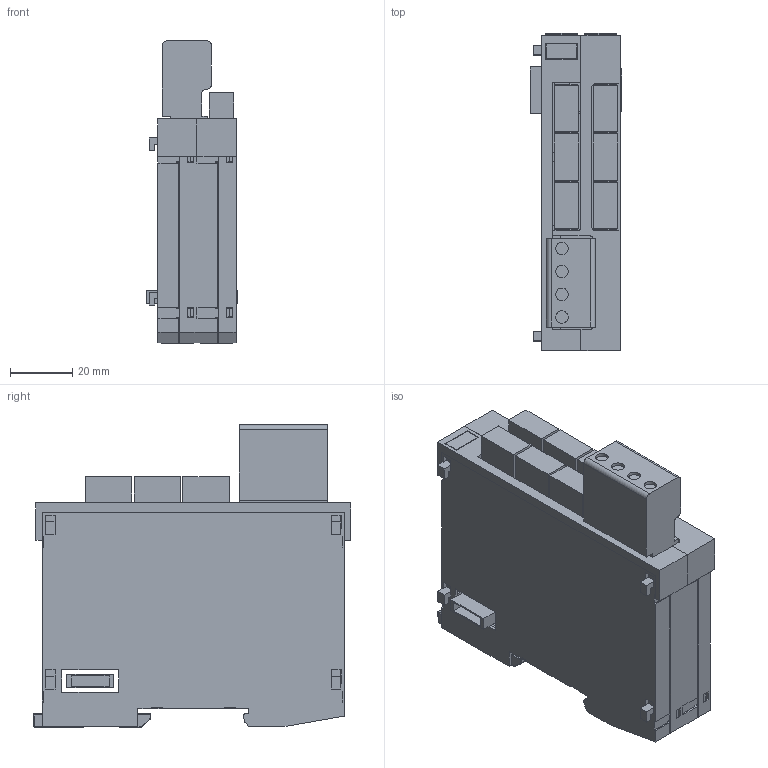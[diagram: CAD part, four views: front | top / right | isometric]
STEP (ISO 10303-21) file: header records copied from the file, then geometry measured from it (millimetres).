
FILE_DESCRIPTION (( 'STEP AP214' ), '1' );
FILE_NAME ('EE121-1 (20-068-121-1) Export20230629.STEP', '2023-06-29T06:56:34', ( 'Windows-Benutzer' ), ( '' ), 'SwSTEP 2.0', 'SolidWorks 2020', '' );
FILE_SCHEMA (( 'AUTOMOTIVE_DESIGN' ));
Length unit declared in the file: millimetre
Products named in the file (13): LP_EE121-1; Schieber_f Suport; EE121-1 (20-068-121-1) Export20230629; S-Dias Doppelmodul Abdeckung Relais Support_EE121-1; S-Dias Schale links_f Suport; S-Dias Zwischenstück Doppelmodul; Dummy_4110262104 4pol.Federkraftstecker f.2reih 1952283; Dummy_4080225345 Erni Buchse; S-Dias Schale rechts_f Suport; Dummy_4080225787 Weidmüller 8000078330; ZM1505-2730-10 Rasthaken S-Dias; Dummy_4110251205 4pol.Minicombicon-Grundgehäuse RM3,5 1937512; Dummy_4080225346 Erni Stift
Assembly tree (18 placements, depth 3):
  EE121-1 (20-068-121-1) Export20230629
    S-Dias Schale links_f Suport
    S-Dias Schale rechts_f Suport
    Schieber_f Suport
    S-Dias Doppelmodul Abdeckung Relais Support_EE121-1
    S-Dias Zwischenstück Doppelmodul
    ZM1505-2730-10 Rasthaken S-Dias  x2
    LP_EE121-1  x2
      Dummy_4080225345 Erni Buchse
      Dummy_4080225346 Erni Stift
      Dummy_4110251205 4pol.Minicombicon-Grundgehäuse RM3,5 1937512
      Dummy_4110262104 4pol.Federkraftstecker f.2reih 1952283
    Dummy_4080225787 Weidmüller 8000078330
Bounding box: 29.3 x 101.64 x 96.81 mm (x, y, z)
Volume: 60558.8 mm3; surface area: 65018.4 mm2
Topology: 25 solids, 25 shells, 1357 faces, 3926 edges, 2607 vertices
Faces by surface type: plane 933, cylinder 238, bspline 140, cone 34, torus 12
Full cylindrical faces by diameter (mm): 4 x4
Entity records: 35282 total; most frequent: CARTESIAN_POINT 8731, ORIENTED_EDGE 5876, DIRECTION 4699, EDGE_CURVE 2938, VECTOR 2279, LINE 2279, VERTEX_POINT 1950, AXIS2_PLACEMENT_3D 1210
